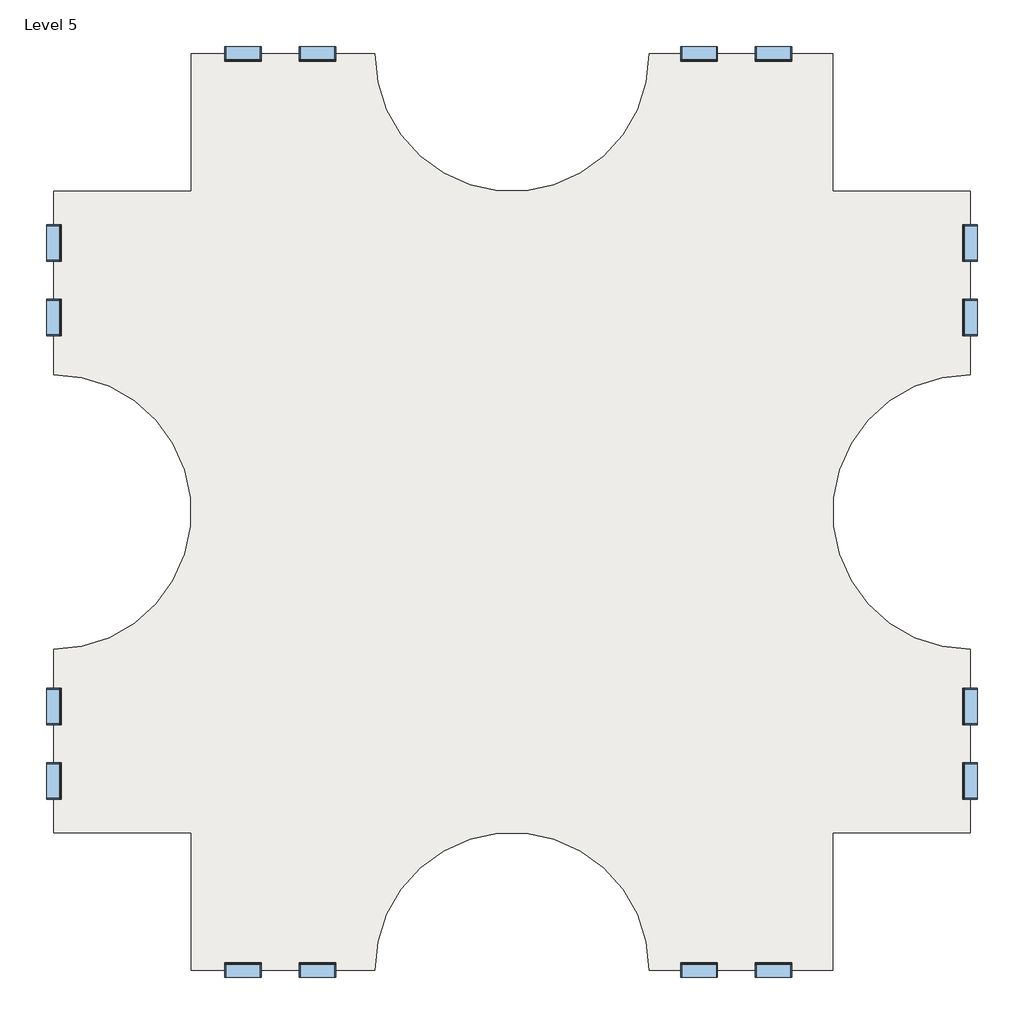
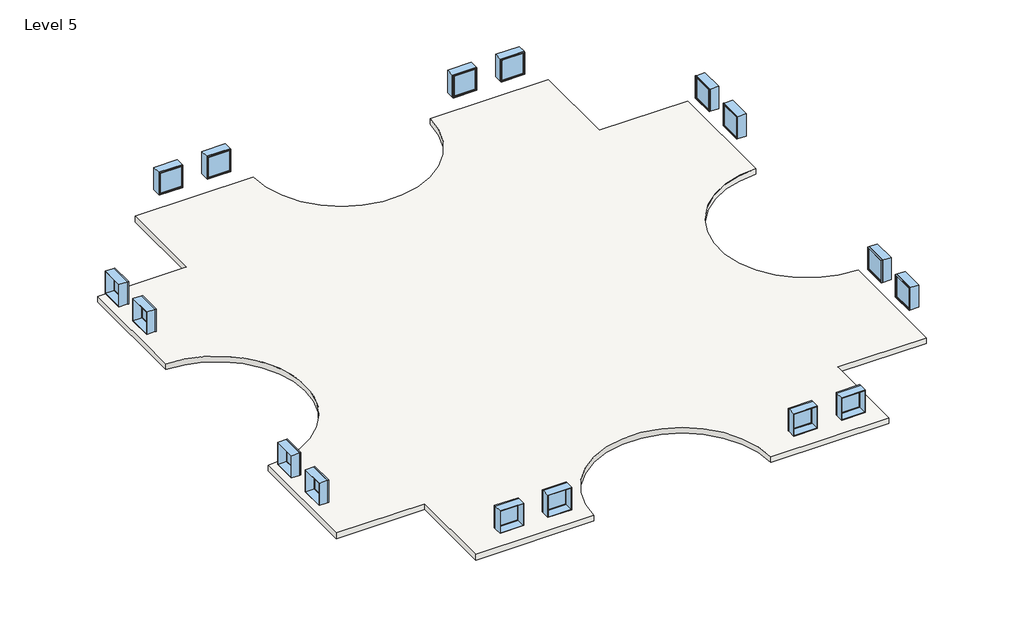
# One storey: 16 windows, 2 slabs.
"""IFC4 building model written with IfcOpenShell, lengths in millimetres."""

from ifc_helpers import new_model, si_unit, point, frame, frame_2d, origin, place, context, project, spatial, polyline, circle_curve, trimmed, segment, composite_curve, outline, extrude, transform, mapped, element, save
from components import window_d0035ecf, window_d434eb62

model = new_model("IFC4")

# Units and contexts
model_context = context("Model", 3, world=origin())
ifc_project = project(units=[si_unit("LENGTHUNIT", "METRE", prefix="MILLI")], contexts=[model_context])

# Site, building, storey
site = spatial("IfcSite", under=ifc_project)
building = spatial("IfcBuilding", under=site)
storey = spatial("IfcBuildingStorey", under=building, Name="Level 5", Elevation=12192.0)

# Slabs
placement = place(None, origin())
element("IfcSlab", 1, ObjectType="Generic - 12\"", at=placement, inside=storey, context=model_context, shape_type="SweptSolid", body=[
    extrude(outline(composite_curve([segment(polyline([(-7150.3629456, 4479.6634547), (-7150.3629456, 9051.6634547), (-1054.3629456, 9051.6634547)]), True, "CONTINUOUS"), segment(trimmed(circle_curve(frame_2d((3517.6370544, 9051.6634547)), 4572.0), [point((-1054.3629456, 9051.6634547))], [point((8089.6370544, 9051.6634547))], True, "CARTESIAN"), True, "CONTINUOUS"), segment(polyline([(8089.6370544, 9051.6634547), (14185.6370544, 9051.6634547), (14185.6370544, 4479.6634547), (18757.6370544, 4479.6634547), (18757.6370544, -1616.3365453)]), True, "CONTINUOUS"), segment(trimmed(circle_curve(frame_2d((18757.6370544, -6188.3365453)), 4572.0), [point((18757.6370544, -1616.3365453))], [point((18757.6370544, -10760.3365453))], True, "CARTESIAN"), True, "CONTINUOUS"), segment(polyline([(18757.6370544, -10760.3365453), (18757.6370544, -16856.3365453), (14185.6370544, -16856.3365453), (14185.6370544, -21428.3365453), (8089.6370544, -21428.3365453)]), True, "CONTINUOUS"), segment(trimmed(circle_curve(frame_2d((3517.6370544, -21428.3365453)), 4572.0), [point((8089.6370544, -21428.3365453))], [point((-1054.3629456, -21428.3365453))], True, "CARTESIAN"), True, "CONTINUOUS"), segment(polyline([(-1054.3629456, -21428.3365453), (-7150.3629456, -21428.3365453), (-7150.3629456, -16856.3365453), (-11722.3629456, -16856.3365453), (-11722.3629456, -10760.3365453)]), True, "CONTINUOUS"), segment(trimmed(circle_curve(frame_2d((-11722.3629456, -6188.3365453)), 4572.0), [point((-11722.3629456, -10760.3365453))], [point((-11722.3629456, -1616.3365453))], True, "CARTESIAN"), True, "CONTINUOUS"), segment(polyline([(-11722.3629456, -1616.3365453), (-11722.3629456, 4479.6634547), (-7150.3629456, 4479.6634547)]), True, "CONTINUOUS")], self_intersect=False)), frame((0.0, 0.0, 11887.2), z_axis=(0.0, 0.0, 1.0), x_axis=(1.0, 0.0, 0.0)), (0.0, 0.0, 1.0), 304.8),
])
element("IfcSlab", 2, ObjectType="Generic - 12\"", at=placement, inside=storey, context=model_context, shape_type="SweptSolid", body=[
    extrude(outline(composite_curve([segment(polyline([(-7150.3629456, 4479.6634547), (-7150.3629456, 9051.6634547), (-1054.3629456, 9051.6634547)]), True, "CONTINUOUS"), segment(trimmed(circle_curve(frame_2d((3517.6370544, 9051.6634547)), 4572.0), [point((-1054.3629456, 9051.6634547))], [point((8089.6370544, 9051.6634547))], True, "CARTESIAN"), True, "CONTINUOUS"), segment(polyline([(8089.6370544, 9051.6634547), (14185.6370544, 9051.6634547), (14185.6370544, 4479.6634547), (18757.6370544, 4479.6634547), (18757.6370544, -1616.3365453)]), True, "CONTINUOUS"), segment(trimmed(circle_curve(frame_2d((18757.6370544, -6188.3365453)), 4572.0), [point((18757.6370544, -1616.3365453))], [point((18757.6370544, -10760.3365453))], True, "CARTESIAN"), True, "CONTINUOUS"), segment(polyline([(18757.6370544, -10760.3365453), (18757.6370544, -16856.3365453), (14185.6370544, -16856.3365453), (14185.6370544, -21428.3365453), (8089.6370544, -21428.3365453)]), True, "CONTINUOUS"), segment(trimmed(circle_curve(frame_2d((3517.6370544, -21428.3365453)), 4572.0), [point((8089.6370544, -21428.3365453))], [point((-1054.3629456, -21428.3365453))], True, "CARTESIAN"), True, "CONTINUOUS"), segment(polyline([(-1054.3629456, -21428.3365453), (-7150.3629456, -21428.3365453), (-7150.3629456, -16856.3365453), (-11722.3629456, -16856.3365453), (-11722.3629456, -10760.3365453)]), True, "CONTINUOUS"), segment(trimmed(circle_curve(frame_2d((-11722.3629456, -6188.3365453)), 4572.0), [point((-11722.3629456, -10760.3365453))], [point((-11722.3629456, -1616.3365453))], True, "CARTESIAN"), True, "CONTINUOUS"), segment(polyline([(-11722.3629456, -1616.3365453), (-11722.3629456, 4479.6634547), (-7150.3629456, 4479.6634547)]), True, "CONTINUOUS")], self_intersect=False)), frame((0.0, 0.0, 11887.2), z_axis=(0.0, 0.0, 1.0), x_axis=(1.0, 0.0, 0.0)), (0.0, 0.0, 1.0), 304.8),
])

# Windows
window_shape = window_d0035ecf(model_context)
element("IfcWindow", 3, ObjectType="Fixed : 48\" x 48\"", at=placement, inside=storey, context=model_context, shape_type="MappedRepresentation", body=[
    mapped(window_shape, transform((-11719.1879456, 247.3884547, 12192.0), x_axis=(0.0, -1.0, 0.0), y_axis=(1.0, 0.0, 0.0), z_axis=(0.0, 0.0, 1.0))),
])
element("IfcWindow", 4, ObjectType="Fixed : 48\" x 48\"", at=placement, inside=storey, context=model_context, shape_type="MappedRepresentation", body=[
    mapped(window_shape, transform((-5469.1993281, 9048.4884547, 12192.0), x_axis=(-1.0, 0.0, 0.0), y_axis=(0.0, -1.0, 0.0), z_axis=(0.0, 0.0, 1.0))),
])
element("IfcWindow", 5, ObjectType="Fixed : 48\" x 48\"", at=placement, inside=storey, context=model_context, shape_type="MappedRepresentation", body=[
    mapped(window_shape, transform((-11719.1879456, -15175.1729277, 12192.0), x_axis=(0.0, -1.0, 0.0), y_axis=(1.0, 0.0, 0.0), z_axis=(0.0, 0.0, 1.0))),
])
element("IfcWindow", 6, ObjectType="Fixed : 48\" x 48\"", at=placement, inside=storey, context=model_context, shape_type="MappedRepresentation", body=[
    mapped(window_shape, transform((-2918.0879456, -21425.1615453, 12192.0), x_axis=(1.0, 0.0, 0.0), y_axis=(0.0, 1.0, 0.0), z_axis=(0.0, 0.0, 1.0))),
])
element("IfcWindow", 7, ObjectType="Fixed : 48\" x 48\"", at=placement, inside=storey, context=model_context, shape_type="MappedRepresentation", body=[
    mapped(window_shape, transform((18754.4620544, 2798.4998372, 12192.0), x_axis=(0.0, 1.0, 0.0), y_axis=(-1.0, 0.0, 0.0), z_axis=(0.0, 0.0, 1.0))),
])
element("IfcWindow", 8, ObjectType="Fixed : 48\" x 48\"", at=placement, inside=storey, context=model_context, shape_type="MappedRepresentation", body=[
    mapped(window_shape, transform((9705.7120544, 9048.4884547, 12192.0), x_axis=(-1.0, 0.0, 0.0), y_axis=(0.0, -1.0, 0.0), z_axis=(0.0, 0.0, 1.0))),
])
element("IfcWindow", 9, ObjectType="Fixed : 48\" x 48\"", at=placement, inside=storey, context=model_context, shape_type="MappedRepresentation", body=[
    mapped(window_shape, transform((18754.4620544, -12624.0615453, 12192.0), x_axis=(0.0, 1.0, 0.0), y_axis=(-1.0, 0.0, 0.0), z_axis=(0.0, 0.0, 1.0))),
])
element("IfcWindow", 10, ObjectType="Fixed : 48\" x 48\"", at=placement, inside=storey, context=model_context, shape_type="MappedRepresentation", body=[
    mapped(window_shape, transform((12256.8234368, -21425.1615453, 12192.0), x_axis=(1.0, 0.0, 0.0), y_axis=(0.0, 1.0, 0.0), z_axis=(0.0, 0.0, 1.0))),
])
window_2_shape = window_d434eb62(model_context)
element("IfcWindow", 11, ObjectType="Fixed : 48\" x 48\"", at=placement, inside=storey, context=model_context, shape_type="MappedRepresentation", body=[
    mapped(window_2_shape, transform((-11719.1879456, 2798.4998372, 12192.0), x_axis=(0.0, 1.0, 0.0), y_axis=(-1.0, 0.0, 0.0), z_axis=(0.0, 0.0, 1.0))),
])
element("IfcWindow", 12, ObjectType="Fixed : 48\" x 48\"", at=placement, inside=storey, context=model_context, shape_type="MappedRepresentation", body=[
    mapped(window_2_shape, transform((-2918.0879456, 9048.4884547, 12192.0), x_axis=(1.0, 0.0, 0.0), y_axis=(0.0, 1.0, 0.0), z_axis=(0.0, 0.0, 1.0))),
])
element("IfcWindow", 13, ObjectType="Fixed : 48\" x 48\"", at=placement, inside=storey, context=model_context, shape_type="MappedRepresentation", body=[
    mapped(window_2_shape, transform((-11719.1879456, -12624.0615453, 12192.0), x_axis=(0.0, 1.0, 0.0), y_axis=(-1.0, 0.0, 0.0), z_axis=(0.0, 0.0, 1.0))),
])
element("IfcWindow", 14, ObjectType="Fixed : 48\" x 48\"", at=placement, inside=storey, context=model_context, shape_type="MappedRepresentation", body=[
    mapped(window_2_shape, transform((-5469.1993281, -21425.1615453, 12192.0), x_axis=(-1.0, 0.0, 0.0), y_axis=(0.0, -1.0, 0.0), z_axis=(0.0, 0.0, 1.0))),
])
element("IfcWindow", 15, ObjectType="Fixed : 48\" x 48\"", at=placement, inside=storey, context=model_context, shape_type="MappedRepresentation", body=[
    mapped(window_2_shape, transform((18754.4620544, 247.3884547, 12192.0), x_axis=(0.0, -1.0, 0.0), y_axis=(1.0, 0.0, 0.0), z_axis=(0.0, 0.0, 1.0))),
])
element("IfcWindow", 16, ObjectType="Fixed : 48\" x 48\"", at=placement, inside=storey, context=model_context, shape_type="MappedRepresentation", body=[
    mapped(window_2_shape, transform((12256.8234368, 9048.4884547, 12192.0), x_axis=(1.0, 0.0, 0.0), y_axis=(0.0, 1.0, 0.0), z_axis=(0.0, 0.0, 1.0))),
])
element("IfcWindow", 17, ObjectType="Fixed : 48\" x 48\"", at=placement, inside=storey, context=model_context, shape_type="MappedRepresentation", body=[
    mapped(window_2_shape, transform((18754.4620544, -15175.1729277, 12192.0), x_axis=(0.0, -1.0, 0.0), y_axis=(1.0, 0.0, 0.0), z_axis=(0.0, 0.0, 1.0))),
])
element("IfcWindow", 18, ObjectType="Fixed : 48\" x 48\"", at=placement, inside=storey, context=model_context, shape_type="MappedRepresentation", body=[
    mapped(window_2_shape, transform((9705.7120544, -21425.1615453, 12192.0), x_axis=(-1.0, 0.0, 0.0), y_axis=(0.0, -1.0, 0.0), z_axis=(0.0, 0.0, 1.0))),
])

save(model, "model.ifc")
